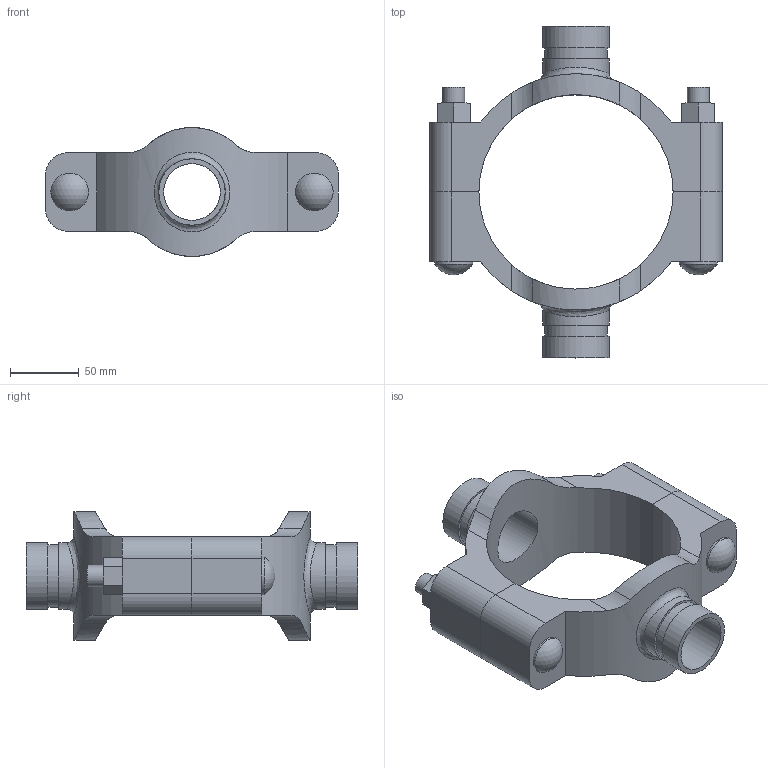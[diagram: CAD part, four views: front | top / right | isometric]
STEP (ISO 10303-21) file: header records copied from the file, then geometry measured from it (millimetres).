
FILE_DESCRIPTION(/* description */ ('VIC MECH-T BRANCH OUTLET CROSS STYLE 920N (GRVD)','CAx-IF Rec.Pracs.---Representation and Presentation of Product Manufacturing Information (PMI)---4.0---2014-10-13'),/* implementation_level */ '2;1');
FILE_NAME(/* name */ 'C:\Users\Vjadhav\AppData\Roaming\Autodesk\ApplicationPlugins\Back Up\Victaulic_IPS_Mechanical-Cross Outlet_Style 920N (OGS)\Victaulic_IPS_Mechanical-Cross Outlet_05.0x01.5x01.5 (125x40x40).stp',/* time_stamp */ '2020-08-06T19:44:13+05:00',/* author */ ('Vjadhav'),/* organization */ ('Victaulic'),/* preprocessor_version */ 'ST-DEVELOPER v17.2',/* originating_system */ 'Autodesk Inventor 2019',/* authorisation */ '');
FILE_SCHEMA (('AP242_MANAGED_MODEL_BASED_3D_ENGINEERING_MIM_LF { 1 0 10303 442 1 1 4 }'));
Length unit declared in the file: inch
Products named in the file (3): 920NG-05.0x01.5x01.5; 920G-05.0x01.5; 920G-05.0x01.5_1
Assembly tree (2 placements, depth 2):
  920NG-05.0x01.5x01.5
    920G-05.0x01.5
    920G-05.0x01.5_1
Bounding box: 212.85 x 241.3 x 93.71 mm (x, y, z)
Volume: 758050 mm3; surface area: 149429.8 mm2
Topology: 2 solids, 2 shells, 104 faces, 262 edges, 178 vertices
Faces by surface type: plane 54, cylinder 46, sphere 2, bspline 2
Full cylindrical faces by diameter (mm): 15.875 x4, 27.381 x2, 41.275 x2, 45.085 x2, 48.26 x4
Entity records: 4030 total; most frequent: CARTESIAN_POINT 1257, DIRECTION 532, ORIENTED_EDGE 524, EDGE_CURVE 262, AXIS2_PLACEMENT_3D 193, VERTEX_POINT 178, LINE 146, VECTOR 146
